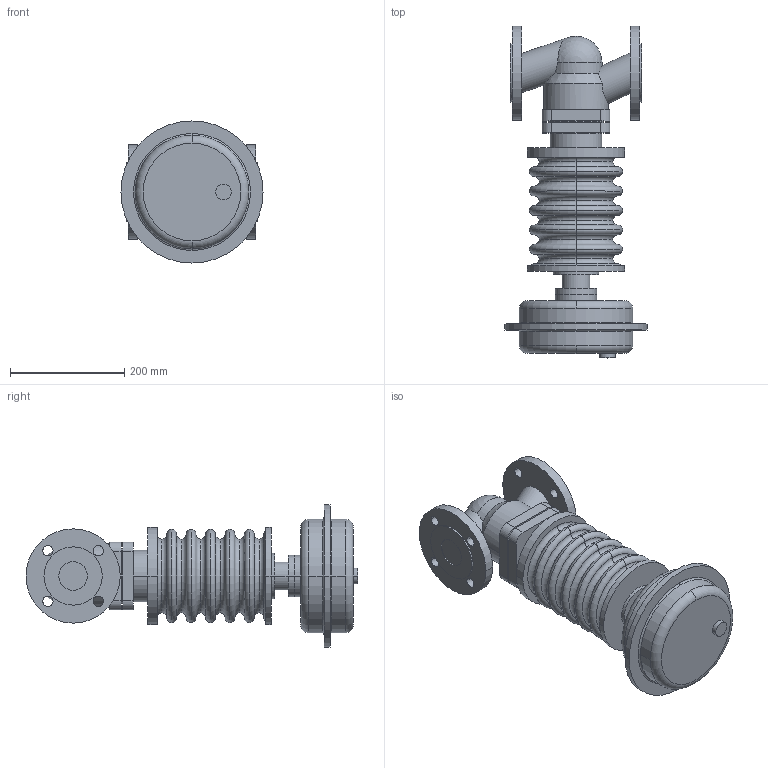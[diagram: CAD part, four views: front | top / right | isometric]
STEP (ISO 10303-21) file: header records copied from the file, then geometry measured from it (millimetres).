
FILE_DESCRIPTION( ( '' ), '1' );
FILE_NAME( 'F:/DE-SHS/TB/OR/04-Sonstiges/daten/files_3d/PREDU/PREDU-PN40-DMA250/c000005378.stp', '2014-06-03T11:24:54', ( '' ), ( '' ), ' ', ' ', ' ' );
FILE_SCHEMA( ( 'CONFIG_CONTROL_DESIGN' ) );
Length unit declared in the file: millimetre
Products named in the file (2): 1; 2
Bounding box: 249 x 581.5 x 249 mm (x, y, z)
Volume: 9677210.7 mm3; surface area: 571350.8 mm2
Topology: 2 solids, 2 shells, 173 faces, 414 edges, 266 vertices
Faces by surface type: cylinder 68, torus 54, plane 48, cone 2, sphere 1
Entity records: 5736 total; most frequent: CARTESIAN_POINT 1366, DIRECTION 1021, ORIENTED_EDGE 824, AXIS2_PLACEMENT_3D 448, EDGE_CURVE 412, CIRCLE 267, VERTEX_POINT 266, EDGE_LOOP 212
